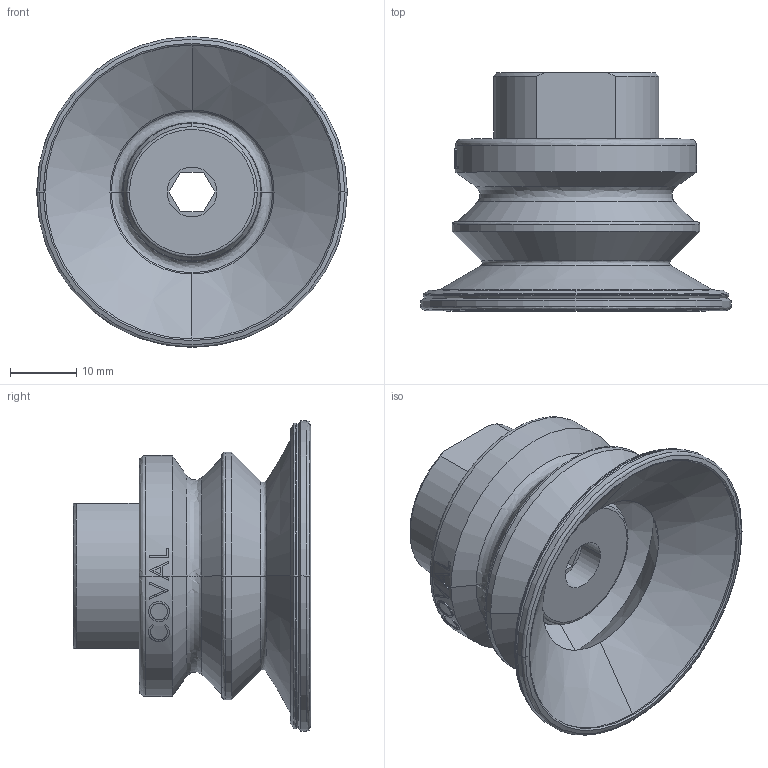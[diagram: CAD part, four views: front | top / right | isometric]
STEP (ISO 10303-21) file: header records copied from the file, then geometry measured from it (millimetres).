
FILE_DESCRIPTION (( 'STEP AP214' ), '1' );
FILE_NAME ('VBC45.STEP', '2019-11-26T03:24:38', ( '微软用户' ), ( '微软中国' ), 'SwSTEP 2.0', 'SolidWorks 2016', '' );
FILE_SCHEMA (( 'AUTOMOTIVE_DESIGN' ));
Length unit declared in the file: millimetre
Products named in the file (1): VBC45
Bounding box: 47 x 36 x 47 mm (x, y, z)
Volume: 16386.4 mm3; surface area: 10257.4 mm2
Topology: 1 solids, 1 shells, 140 faces, 338 edges, 211 vertices
Faces by surface type: bspline 53, cone 31, plane 29, cylinder 27
Entity records: 14857 total; most frequent: CARTESIAN_POINT 10221, ORIENTED_EDGE 676, DIRECTION 585, EDGE_CURVE 338, AXIS2_PLACEMENT_3D 231, VERTEX_POINT 211, EDGE_LOOP 153, CIRCLE 143
